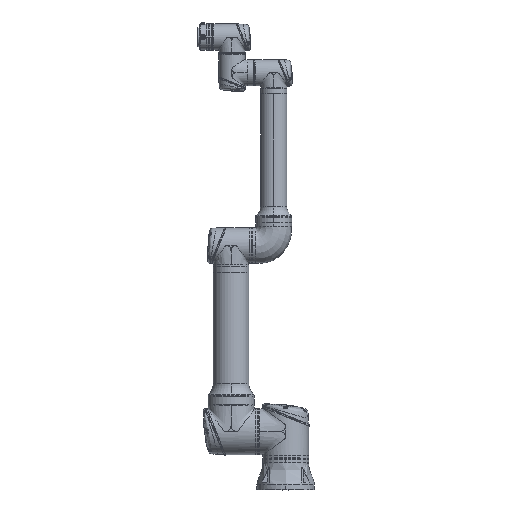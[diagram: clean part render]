
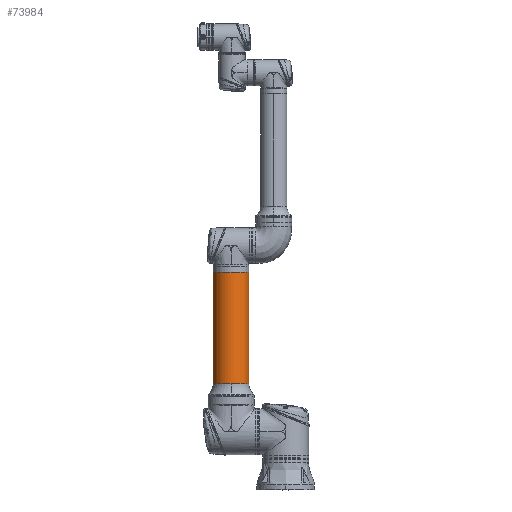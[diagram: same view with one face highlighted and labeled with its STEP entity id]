
A CAD part, top view. The second image highlights one B-rep face of the part: STEP entity #73984.
In plain terms, the highlighted cylindrical face has radius 59 mm (diameter 118 mm), a partial arc.
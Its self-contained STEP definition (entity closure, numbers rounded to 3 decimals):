
#917 = DIRECTION ( 'NONE',  ( 0., 0., -1. ) ) ;
#9093 = DIRECTION ( 'NONE',  ( 1., 0., 0. ) ) ;
#14068 = LINE ( 'NONE', #212896, #322113 ) ;
#21599 = CARTESIAN_POINT ( 'NONE',  ( 158.463, 0., -59. ) ) ;
#23951 = CARTESIAN_POINT ( 'NONE',  ( 158.463, 59., 0. ) ) ;
#26445 = CARTESIAN_POINT ( 'NONE',  ( 526.1, 0., 59. ) ) ;
#40074 = DIRECTION ( 'NONE',  ( 1., 0., 0. ) ) ;
#58124 = AXIS2_PLACEMENT_3D ( 'NONE', #138471, #319836, #357425 ) ;
#64388 = VERTEX_POINT ( 'NONE', #26445 ) ;
#70314 = ORIENTED_EDGE ( 'NONE', *, *, #402885, .F. ) ;
#73984 = ADVANCED_FACE ( 'NONE', ( #291171 ), #363944, .T. ) ;
#89638 = VERTEX_POINT ( 'NONE', #330127 ) ;
#110593 = CARTESIAN_POINT ( 'NONE',  ( 562.7, 0., 0. ) ) ;
#111346 = VERTEX_POINT ( 'NONE', #21599 ) ;
#127559 = VERTEX_POINT ( 'NONE', #23951 ) ;
#138471 = CARTESIAN_POINT ( 'NONE',  ( 158.463, 0., 0. ) ) ;
#149696 = CIRCLE ( 'NONE', #58124, 59. ) ;
#156150 = CARTESIAN_POINT ( 'NONE',  ( 158.463, 0., 0. ) ) ;
#157750 = DIRECTION ( 'NONE',  ( 0., 0., -1. ) ) ;
#164623 = ORIENTED_EDGE ( 'NONE', *, *, #374789, .T. ) ;
#193520 = AXIS2_PLACEMENT_3D ( 'NONE', #156150, #339112, #265585 ) ;
#201679 = LINE ( 'NONE', #307480, #409160 ) ;
#203843 = CIRCLE ( 'NONE', #451658, 59. ) ;
#205811 = CARTESIAN_POINT ( 'NONE',  ( 158.463, 0., 59. ) ) ;
#212896 = CARTESIAN_POINT ( 'NONE',  ( 562.7, 0., -59. ) ) ;
#247714 = ORIENTED_EDGE ( 'NONE', *, *, #334380, .T. ) ;
#254570 = AXIS2_PLACEMENT_3D ( 'NONE', #110593, #40074, #917 ) ;
#265585 = DIRECTION ( 'NONE',  ( 0., 1., 0. ) ) ;
#269471 = VERTEX_POINT ( 'NONE', #205811 ) ;
#275881 = CIRCLE ( 'NONE', #193520, 59. ) ;
#278674 = DIRECTION ( 'NONE',  ( 1., 0., 0. ) ) ;
#291171 = FACE_OUTER_BOUND ( 'NONE', #429185, .T. ) ;
#307480 = CARTESIAN_POINT ( 'NONE',  ( 562.7, 0., 59. ) ) ;
#319836 = DIRECTION ( 'NONE',  ( 1., 0., 0. ) ) ;
#322113 = VECTOR ( 'NONE', #278674, 1000. ) ;
#326207 = ORIENTED_EDGE ( 'NONE', *, *, #368988, .F. ) ;
#329927 = CARTESIAN_POINT ( 'NONE',  ( 526.1, 0., 0. ) ) ;
#330127 = CARTESIAN_POINT ( 'NONE',  ( 526.1, 0., -59. ) ) ;
#334380 = EDGE_CURVE ( 'NONE', #269471, #64388, #201679, .T. ) ;
#339112 = DIRECTION ( 'NONE',  ( 1., 0., 0. ) ) ;
#340553 = EDGE_CURVE ( 'NONE', #127559, #269471, #149696, .T. ) ;
#357425 = DIRECTION ( 'NONE',  ( 0., 1., 0. ) ) ;
#363944 = CYLINDRICAL_SURFACE ( 'NONE', #254570, 59. ) ;
#368988 = EDGE_CURVE ( 'NONE', #111346, #89638, #14068, .T. ) ;
#374789 = EDGE_CURVE ( 'NONE', #111346, #127559, #275881, .T. ) ;
#402885 = EDGE_CURVE ( 'NONE', #89638, #64388, #203843, .T. ) ;
#409160 = VECTOR ( 'NONE', #418580, 1000. ) ;
#418580 = DIRECTION ( 'NONE',  ( 1., 0., 0. ) ) ;
#429185 = EDGE_LOOP ( 'NONE', ( #164623, #436495, #247714, #70314, #326207 ) ) ;
#436495 = ORIENTED_EDGE ( 'NONE', *, *, #340553, .T. ) ;
#451658 = AXIS2_PLACEMENT_3D ( 'NONE', #329927, #9093, #157750 ) ;
